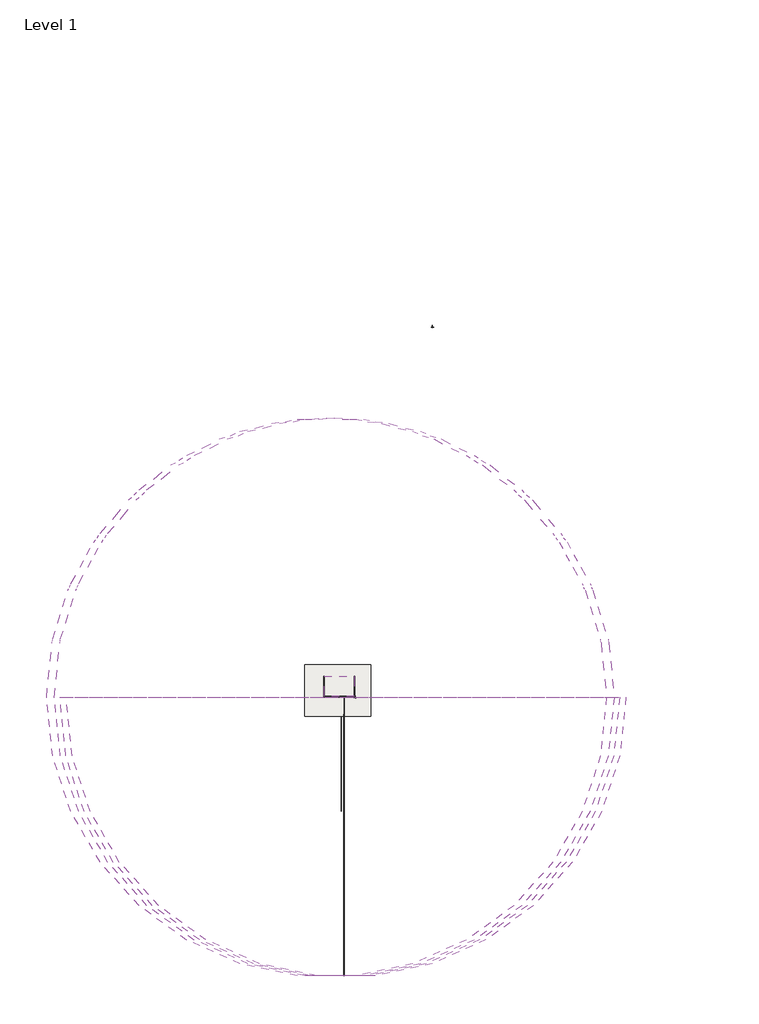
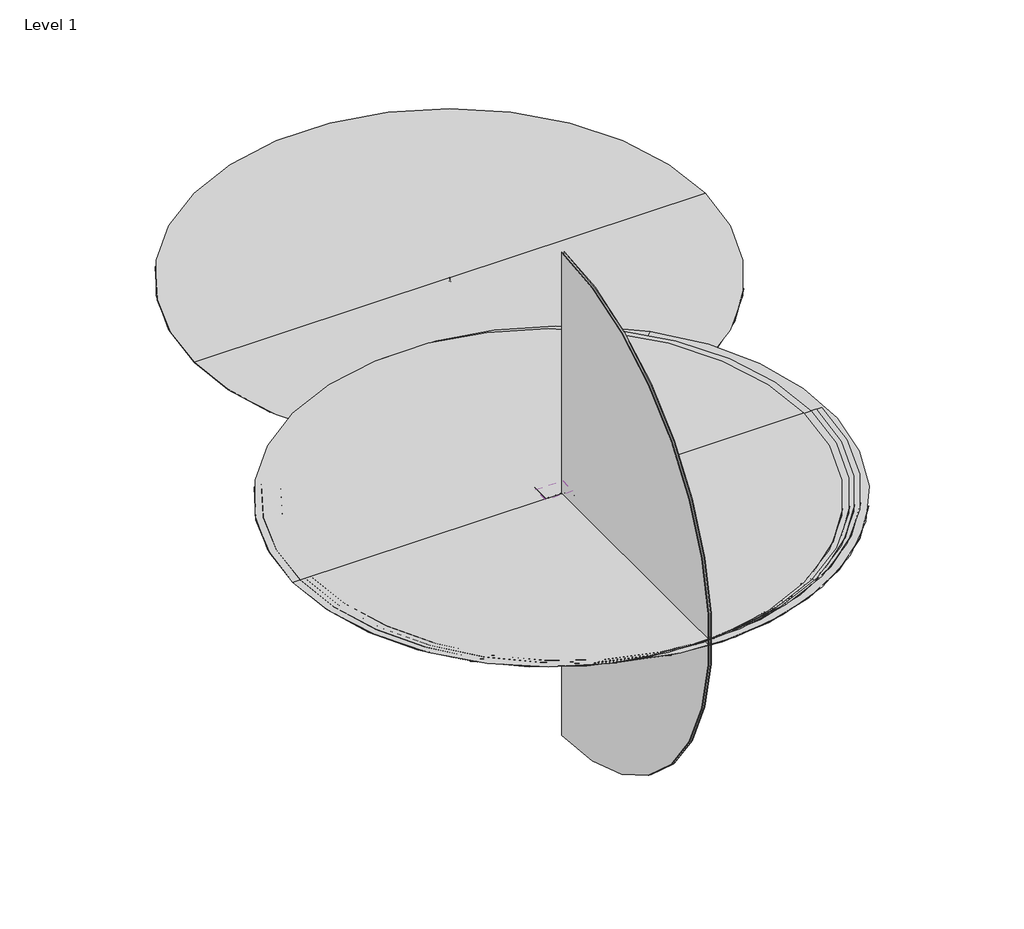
# One storey: 8 proxies, 3 walls, 1 covering, 1 slab.
"""IFC4 building model written with IfcOpenShell, lengths in millimetres."""

from ifc_helpers import new_model, si_unit, frame, origin, origin_with_axes, place, context, project, spatial, polyline, outline, extrude, faceted_brep, transform, mapped, element, save
from components import m1_edge_poe_0bd1f5fe, m1_edge_poe_default_f8c1ceea, m1_edge_poe_hinge_mount_f169b62e, m1_edge_poe_left_hinge_cab26d9b, m1_edge_poe_pole_mount_3354eebb, m1_edge_poe_right_hinge_7a0e9621, m1_edge_poe_wall_mount_011ba7e5

model = new_model("IFC4")

# Units and contexts
model_context = context("Model", 3, world=origin())
ifc_project = project(units=[si_unit("LENGTHUNIT", "METRE", prefix="MILLI")], contexts=[model_context])

# Site, building, storey
site = spatial("IfcSite", under=ifc_project)
building = spatial("IfcBuilding", under=site)
storey = spatial("IfcBuildingStorey", under=building, Name="Level 1", Elevation=0.0)

# Proxies
placement = place(None, origin())
m1_edge_poe_shape = m1_edge_poe_0bd1f5fe(model_context)
element("IfcBuildingElementProxy", 1, Name="M1 Edge PoE+ : Tripod", ObjectType="M1 Edge PoE+ : Tripod", at=placement, inside=storey, context=model_context, shape_type="MappedRepresentation", body=[
    mapped(m1_edge_poe_shape, transform((3176.9597881, -3304.7911126, 0.0), x_axis=(-0.7060106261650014, -0.7082012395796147, 0.0), y_axis=(0.7082012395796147, -0.7060106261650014, 0.0), z_axis=(0.0, 0.0, 1.0))),
])
element("IfcBuildingElementProxy", 2, Name="M1 Edge PoE+ : Tripod", ObjectType="M1 Edge PoE+ : Tripod", at=placement, inside=storey, context=model_context, shape_type="MappedRepresentation", body=[
    mapped(m1_edge_poe_shape, transform((22573.9152619, 89466.9326195, 0.0), x_axis=(1.0, 0.0, 0.0), y_axis=(0.0, 1.0, 0.0), z_axis=(0.0, 0.0, 1.0))),
])
m1_edge_poe_default_shape = m1_edge_poe_default_f8c1ceea(model_context)
element("IfcBuildingElementProxy", 3, Name="M1 Edge PoE+ : Default", ObjectType="M1 Edge PoE+ : Default", at=placement, inside=storey, context=model_context, shape_type="MappedRepresentation", body=[
    mapped(m1_edge_poe_default_shape, transform((-3938.20265, -3323.2988336, 0.0), x_axis=(-1.0, 0.0, 0.0), y_axis=(0.0, -1.0, 0.0), z_axis=(0.0, 0.0, 1.0))),
])
m1_edge_poe_hinge_mount_shape = m1_edge_poe_hinge_mount_f169b62e(model_context)
element("IfcBuildingElementProxy", 4, Name="M1 Edge PoE+ : Hinge Mount", ObjectType="M1 Edge PoE+ : Hinge Mount", at=placement, inside=storey, context=model_context, shape_type="MappedRepresentation", body=[
    mapped(m1_edge_poe_hinge_mount_shape, transform((-616.2847381, -3293.8673805, 0.0), x_axis=(-1.0, 0.0, 0.0), y_axis=(0.0, -1.0, 0.0), z_axis=(0.0, 0.0, 1.0))),
])
m1_edge_poe_left_hinge_shape = m1_edge_poe_left_hinge_cab26d9b(model_context)
element("IfcBuildingElementProxy", 5, Name="M1 Edge PoE+ : Left Hinge", ObjectType="M1 Edge PoE+ : Left Hinge", at=placement, inside=storey, context=model_context, shape_type="MappedRepresentation", body=[
    mapped(m1_edge_poe_left_hinge_shape, transform((272.7152619, -3293.8673805, 0.0), x_axis=(-1.0, 0.0, 0.0), y_axis=(0.0, -1.0, 0.0), z_axis=(0.0, 0.0, 1.0))),
])
m1_edge_poe_pole_mount_shape = m1_edge_poe_pole_mount_3354eebb(model_context)
element("IfcBuildingElementProxy", 6, Name="M1 Edge PoE+ : Pole Mount", ObjectType="M1 Edge PoE+ : Pole Mount", at=placement, inside=storey, context=model_context, shape_type="MappedRepresentation", body=[
    mapped(m1_edge_poe_pole_mount_shape, transform((-1982.40265, -3323.2988336, 0.0), x_axis=(-1.0, 0.0, 0.0), y_axis=(0.0, -1.0, 0.0), z_axis=(0.0, 0.0, 1.0))),
])
m1_edge_poe_right_hinge_shape = m1_edge_poe_right_hinge_7a0e9621(model_context)
element("IfcBuildingElementProxy", 7, Name="M1 Edge PoE+ : Right Hinge", ObjectType="M1 Edge PoE+ : Right Hinge", at=placement, inside=storey, context=model_context, shape_type="MappedRepresentation", body=[
    mapped(m1_edge_poe_right_hinge_shape, transform((-108.2847381, -3293.8673805, 0.0), x_axis=(-1.0, 0.0, 0.0), y_axis=(0.0, -1.0, 0.0), z_axis=(0.0, 0.0, 1.0))),
])
m1_edge_poe_wall_mount_shape = m1_edge_poe_wall_mount_011ba7e5(model_context)
element("IfcBuildingElementProxy", 8, Name="M1 Edge PoE+ : Wall Mount", ObjectType="M1 Edge PoE+ : Wall Mount", at=placement, inside=storey, context=model_context, shape_type="MappedRepresentation", body=[
    mapped(m1_edge_poe_wall_mount_shape, transform((933.115262, -3293.8673805, 0.0), x_axis=(-1.0, -1.8983625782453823e-10, 0.0), y_axis=(1.8983625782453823e-10, -1.0, 0.0), z_axis=(0.0, 0.0, 1.0))),
])

# Covering
element("IfcCovering", 9, ObjectType="2' x 4' ACT System", at=placement, inside=storey, context=model_context, shape_type="SweptSolid", body=[
    extrude(outline(polyline([(-4451.6847381, 1887.7326195), (2965.1152619, 1887.7326195), (2965.1152619, -3090.6673805), (-4451.6847381, -3090.6673805), (-4451.6847381, 1887.7326195)])), frame((0.0, 0.0, 2438.4), z_axis=(0.0, 0.0, 1.0), x_axis=(1.0, 0.0, 0.0)), (0.0, 0.0, 1.0), 57.15),
])

# Slab
element("IfcSlab", 10, ObjectType="Generic - 12\"", at=placement, inside=storey, context=model_context, shape_type="SweptSolid", body=[
    extrude(outline(polyline([(7112.7591015, 4847.6367519), (7112.7591015, -8106.3632481), (-9346.4408985, -8106.3632481), (-9346.4408985, 4847.6367519), (7112.7591015, 4847.6367519)])), frame((0.0, 0.0, -304.8), z_axis=(0.0, 0.0, 1.0), x_axis=(1.0, 0.0, 0.0)), (0.0, 0.0, 1.0), 304.8),
])

# Walls
element("IfcWall", 11, ObjectType="Generic - 8\"", at=placement, inside=storey, context=model_context, shape_type="Brep", body=[
    faceted_brep([(-4451.6847381, -3293.8673805, 0.0), (-4451.6847381, -3090.6673805, 0.0), (-4451.6847381, 1989.3326195, 0.0), (-4451.6847381, 1989.3326195, 3048.0), (-4451.6847381, -3090.6673805, 3048.0), (-4451.6847381, -3293.8673805, 3048.0), (-4654.8847381, -3293.8673805, 0.0), (-4654.8847381, -3293.8673805, 3048.0), (-4654.8847381, 1989.3326195, 3048.0), (-4654.8847381, 1989.3326195, 0.0)], [[[0, 1, 2, 3, 4, 5]], [[6, 7, 8, 9]], [[2, 1, 0, 6, 9]], [[3, 2, 9, 8]], [[5, 4, 3, 8, 7]], [[0, 5, 7, 6]]]),
])
element("IfcWall", 12, ObjectType="Generic - 8\"", at=placement, inside=storey, context=model_context, shape_type="Brep", body=[
    faceted_brep([(3168.3152619, -3090.6673805, 0.0), (2965.1152619, -3090.6673805, 0.0), (-4451.6847381, -3090.6673805, 0.0), (-4451.6847381, -3090.6673805, 3048.0), (2965.1152619, -3090.6673805, 3048.0), (3168.3152619, -3090.6673805, 3048.0), (3168.3152619, -3293.8673805, 0.0), (3168.3152619, -3293.8673805, 3048.0), (-4451.6847381, -3293.8673805, 3048.0), (-4451.6847381, -3293.8673805, 0.0)], [[[0, 1, 2, 3, 4, 5]], [[6, 7, 8, 9]], [[2, 1, 0, 6, 9]], [[5, 4, 3, 8, 7]], [[0, 5, 7, 6]], [[3, 2, 9, 8]]]),
])
element("IfcWall", 13, ObjectType="Generic - 8\"", at=placement, inside=storey, context=model_context, shape_type="SweptSolid", body=[
    extrude(outline(polyline([(2965.1152619, -3090.6673805), (2965.1152619, 1989.3326195), (3168.3152619, 1989.3326195), (3168.3152619, -3090.6673805), (2965.1152619, -3090.6673805)])), origin_with_axes(), (0.0, 0.0, 1.0), 3048.0),
])

save(model, "model.ifc")
